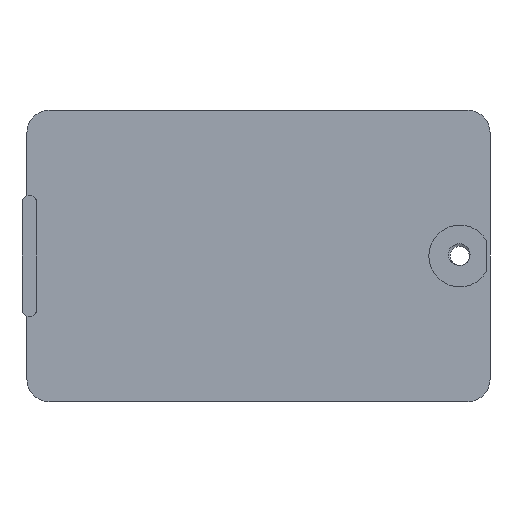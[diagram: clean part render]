
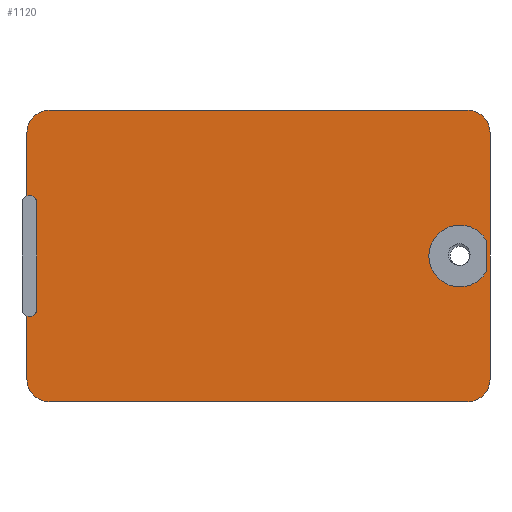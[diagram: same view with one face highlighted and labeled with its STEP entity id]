
A CAD part, front view. The second image highlights one B-rep face of the part: STEP entity #1120.
In plain terms, the highlighted planar face has unit normal (0, -1, 0).
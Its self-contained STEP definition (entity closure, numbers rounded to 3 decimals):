
#5 = CARTESIAN_POINT ( 'NONE',  ( 0., 0., -24.8 ) ) ;
#6 = CIRCLE ( 'NONE', #729, 0.6 ) ;
#22 = EDGE_CURVE ( 'NONE', #415, #393, #1751, .T. ) ;
#26 = DIRECTION ( 'NONE',  ( 0., 0., -1. ) ) ;
#30 = ORIENTED_EDGE ( 'NONE', *, *, #1083, .F. ) ;
#33 = CARTESIAN_POINT ( 'NONE',  ( 36.9, 0., -23. ) ) ;
#41 = EDGE_LOOP ( 'NONE', ( #1222, #150, #839, #1614 ) ) ;
#61 = EDGE_CURVE ( 'NONE', #393, #1060, #1843, .T. ) ;
#92 = VERTEX_POINT ( 'NONE', #1309 ) ;
#103 = VECTOR ( 'NONE', #1578, 1000. ) ;
#130 = CARTESIAN_POINT ( 'NONE',  ( 3., 0., -3. ) ) ;
#138 = CARTESIAN_POINT ( 'NONE',  ( 1.4, 0., -8.7 ) ) ;
#141 = LINE ( 'NONE', #5, #103 ) ;
#150 = ORIENTED_EDGE ( 'NONE', *, *, #1353, .T. ) ;
#170 = EDGE_CURVE ( 'NONE', #350, #92, #1246, .T. ) ;
#212 = DIRECTION ( 'NONE',  ( 0., 0., -1. ) ) ;
#247 = VERTEX_POINT ( 'NONE', #624 ) ;
#259 = CARTESIAN_POINT ( 'NONE',  ( 1.4, 0., -17.3 ) ) ;
#282 = DIRECTION ( 'NONE',  ( 0., 0., -1. ) ) ;
#297 = CIRCLE ( 'NONE', #1301, 0.6 ) ;
#303 = CARTESIAN_POINT ( 'NONE',  ( 2., 0., -8.1 ) ) ;
#308 = CARTESIAN_POINT ( 'NONE',  ( 36.25, 0., -10.5 ) ) ;
#311 = DIRECTION ( 'NONE',  ( 0., -1., 0. ) ) ;
#317 = CARTESIAN_POINT ( 'NONE',  ( 36.25, 0., -15.5 ) ) ;
#347 = ORIENTED_EDGE ( 'NONE', *, *, #1835, .T. ) ;
#350 = VERTEX_POINT ( 'NONE', #1453 ) ;
#352 = EDGE_CURVE ( 'NONE', #733, #1816, #141, .T. ) ;
#358 = DIRECTION ( 'NONE',  ( 0., -1., 0. ) ) ;
#359 = VERTEX_POINT ( 'NONE', #1178 ) ;
#372 = ORIENTED_EDGE ( 'NONE', *, *, #22, .F. ) ;
#387 = AXIS2_PLACEMENT_3D ( 'NONE', #130, #1564, #430 ) ;
#393 = VERTEX_POINT ( 'NONE', #317 ) ;
#399 = DIRECTION ( 'NONE',  ( 0., 1., 0. ) ) ;
#410 = CARTESIAN_POINT ( 'NONE',  ( 1.2, 0., -3. ) ) ;
#415 = VERTEX_POINT ( 'NONE', #308 ) ;
#423 = EDGE_CURVE ( 'NONE', #1638, #1657, #885, .T. ) ;
#428 = CIRCLE ( 'NONE', #1452, 1.8 ) ;
#430 = DIRECTION ( 'NONE',  ( 0., 0., -1. ) ) ;
#443 = DIRECTION ( 'NONE',  ( 0., 0., -1. ) ) ;
#456 = CARTESIAN_POINT ( 'NONE',  ( 1.2, 0., -23. ) ) ;
#458 = VECTOR ( 'NONE', #1205, 1000. ) ;
#471 = DIRECTION ( 'NONE',  ( 0., 0., -1. ) ) ;
#484 = DIRECTION ( 'NONE',  ( -1., 0., 0. ) ) ;
#508 = FACE_BOUND ( 'NONE', #1218, .T. ) ;
#515 = AXIS2_PLACEMENT_3D ( 'NONE', #1846, #980, #1414 ) ;
#522 = ORIENTED_EDGE ( 'NONE', *, *, #61, .F. ) ;
#550 = EDGE_CURVE ( 'NONE', #732, #350, #1354, .T. ) ;
#558 = CARTESIAN_POINT ( 'NONE',  ( 1.5, 0., -17.892 ) ) ;
#565 = CARTESIAN_POINT ( 'NONE',  ( 3., 0., -23. ) ) ;
#603 = DIRECTION ( 'NONE',  ( 0., -1., 0. ) ) ;
#612 = AXIS2_PLACEMENT_3D ( 'NONE', #1736, #1155, #443 ) ;
#624 = CARTESIAN_POINT ( 'NONE',  ( 38.4, 0., -11.724 ) ) ;
#678 = CARTESIAN_POINT ( 'NONE',  ( 1.2, 0., 0. ) ) ;
#690 = ORIENTED_EDGE ( 'NONE', *, *, #1268, .T. ) ;
#695 = DIRECTION ( 'NONE',  ( 0., -1., 0. ) ) ;
#697 = AXIS2_PLACEMENT_3D ( 'NONE', #1572, #1834, #282 ) ;
#724 = VERTEX_POINT ( 'NONE', #1150 ) ;
#729 = AXIS2_PLACEMENT_3D ( 'NONE', #138, #399, #984 ) ;
#732 = VERTEX_POINT ( 'NONE', #1020 ) ;
#733 = VERTEX_POINT ( 'NONE', #1450 ) ;
#761 = EDGE_LOOP ( 'NONE', ( #1676, #994, #1782, #347, #1355, #1307, #1651, #690 ) ) ;
#839 = ORIENTED_EDGE ( 'NONE', *, *, #423, .F. ) ;
#842 = DIRECTION ( 'NONE',  ( 0., 1., 0. ) ) ;
#861 = EDGE_CURVE ( 'NONE', #247, #1060, #1012, .T. ) ;
#863 = DIRECTION ( 'NONE',  ( 0., 0., -1. ) ) ;
#866 = VERTEX_POINT ( 'NONE', #410 ) ;
#871 = VERTEX_POINT ( 'NONE', #1732 ) ;
#876 = VECTOR ( 'NONE', #484, 1000. ) ;
#885 = LINE ( 'NONE', #1461, #1183 ) ;
#904 = CARTESIAN_POINT ( 'NONE',  ( 38.7, 0., 0. ) ) ;
#939 = VECTOR ( 'NONE', #212, 1000. ) ;
#980 = DIRECTION ( 'NONE',  ( 0., -1., 0. ) ) ;
#984 = DIRECTION ( 'NONE',  ( 0., 0., -1. ) ) ;
#989 = ORIENTED_EDGE ( 'NONE', *, *, #861, .T. ) ;
#990 = FACE_BOUND ( 'NONE', #41, .T. ) ;
#994 = ORIENTED_EDGE ( 'NONE', *, *, #1116, .T. ) ;
#1007 = FACE_OUTER_BOUND ( 'NONE', #761, .T. ) ;
#1012 = LINE ( 'NONE', #1159, #1185 ) ;
#1020 = CARTESIAN_POINT ( 'NONE',  ( 38.7, 0., -23. ) ) ;
#1022 = VERTEX_POINT ( 'NONE', #456 ) ;
#1060 = VERTEX_POINT ( 'NONE', #1146 ) ;
#1083 = EDGE_CURVE ( 'NONE', #247, #415, #1087, .T. ) ;
#1084 = PLANE ( 'NONE',  #697 ) ;
#1087 = CIRCLE ( 'NONE', #515, 2.5 ) ;
#1089 = VECTOR ( 'NONE', #1388, 1000. ) ;
#1116 = EDGE_CURVE ( 'NONE', #1022, #733, #1362, .T. ) ;
#1120 = ADVANCED_FACE ( 'NONE', ( #508, #1007, #990 ), #1084, .T. ) ;
#1146 = CARTESIAN_POINT ( 'NONE',  ( 38.4, 0., -14.276 ) ) ;
#1148 = CIRCLE ( 'NONE', #387, 1.8 ) ;
#1150 = CARTESIAN_POINT ( 'NONE',  ( 2., 0., -17.3 ) ) ;
#1155 = DIRECTION ( 'NONE',  ( 0., -1., 0. ) ) ;
#1159 = CARTESIAN_POINT ( 'NONE',  ( 38.4, 0., 0. ) ) ;
#1173 = CARTESIAN_POINT ( 'NONE',  ( 0., 0., -1.2 ) ) ;
#1178 = CARTESIAN_POINT ( 'NONE',  ( 3., 0., -1.2 ) ) ;
#1183 = VECTOR ( 'NONE', #1525, 1000. ) ;
#1185 = VECTOR ( 'NONE', #863, 1000. ) ;
#1192 = CARTESIAN_POINT ( 'NONE',  ( 36.25, 0., -13. ) ) ;
#1205 = DIRECTION ( 'NONE',  ( 0., 0., 1. ) ) ;
#1218 = EDGE_LOOP ( 'NONE', ( #30, #989, #522, #372 ) ) ;
#1222 = ORIENTED_EDGE ( 'NONE', *, *, #1500, .F. ) ;
#1246 = CIRCLE ( 'NONE', #1486, 1.8 ) ;
#1268 = EDGE_CURVE ( 'NONE', #359, #866, #1148, .T. ) ;
#1301 = AXIS2_PLACEMENT_3D ( 'NONE', #259, #842, #26 ) ;
#1307 = ORIENTED_EDGE ( 'NONE', *, *, #170, .T. ) ;
#1309 = CARTESIAN_POINT ( 'NONE',  ( 36.9, 0., -1.2 ) ) ;
#1340 = EDGE_CURVE ( 'NONE', #1638, #871, #6, .T. ) ;
#1353 = EDGE_CURVE ( 'NONE', #724, #1657, #297, .T. ) ;
#1354 = LINE ( 'NONE', #904, #458 ) ;
#1355 = ORIENTED_EDGE ( 'NONE', *, *, #550, .T. ) ;
#1359 = LINE ( 'NONE', #303, #1089 ) ;
#1362 = CIRCLE ( 'NONE', #1569, 1.8 ) ;
#1367 = DIRECTION ( 'NONE',  ( 0., 0., -1. ) ) ;
#1380 = EDGE_CURVE ( 'NONE', #92, #359, #1609, .T. ) ;
#1388 = DIRECTION ( 'NONE',  ( 0., 0., 1. ) ) ;
#1414 = DIRECTION ( 'NONE',  ( 0., 0., -1. ) ) ;
#1450 = CARTESIAN_POINT ( 'NONE',  ( 3., 0., -24.8 ) ) ;
#1452 = AXIS2_PLACEMENT_3D ( 'NONE', #33, #603, #471 ) ;
#1453 = CARTESIAN_POINT ( 'NONE',  ( 38.7, 0., -3. ) ) ;
#1456 = DIRECTION ( 'NONE',  ( 0., 0., -1. ) ) ;
#1461 = CARTESIAN_POINT ( 'NONE',  ( 1.5, 0., -17.9 ) ) ;
#1464 = CARTESIAN_POINT ( 'NONE',  ( 36.9, 0., -24.8 ) ) ;
#1486 = AXIS2_PLACEMENT_3D ( 'NONE', #1635, #358, #1367 ) ;
#1500 = EDGE_CURVE ( 'NONE', #724, #871, #1359, .T. ) ;
#1505 = LINE ( 'NONE', #678, #939 ) ;
#1509 = EDGE_CURVE ( 'NONE', #866, #1022, #1505, .T. ) ;
#1521 = DIRECTION ( 'NONE',  ( 0., 0., -1. ) ) ;
#1524 = AXIS2_PLACEMENT_3D ( 'NONE', #1192, #311, #1456 ) ;
#1525 = DIRECTION ( 'NONE',  ( 0., 0., -1. ) ) ;
#1564 = DIRECTION ( 'NONE',  ( 0., -1., 0. ) ) ;
#1569 = AXIS2_PLACEMENT_3D ( 'NONE', #565, #695, #1521 ) ;
#1572 = CARTESIAN_POINT ( 'NONE',  ( 0., 0., 0. ) ) ;
#1578 = DIRECTION ( 'NONE',  ( 1., 0., 0. ) ) ;
#1609 = LINE ( 'NONE', #1173, #876 ) ;
#1614 = ORIENTED_EDGE ( 'NONE', *, *, #1340, .T. ) ;
#1635 = CARTESIAN_POINT ( 'NONE',  ( 36.9, 0., -3. ) ) ;
#1638 = VERTEX_POINT ( 'NONE', #1817 ) ;
#1651 = ORIENTED_EDGE ( 'NONE', *, *, #1380, .T. ) ;
#1657 = VERTEX_POINT ( 'NONE', #558 ) ;
#1676 = ORIENTED_EDGE ( 'NONE', *, *, #1509, .T. ) ;
#1732 = CARTESIAN_POINT ( 'NONE',  ( 2., 0., -8.7 ) ) ;
#1736 = CARTESIAN_POINT ( 'NONE',  ( 36.25, 0., -13. ) ) ;
#1751 = CIRCLE ( 'NONE', #612, 2.5 ) ;
#1782 = ORIENTED_EDGE ( 'NONE', *, *, #352, .T. ) ;
#1816 = VERTEX_POINT ( 'NONE', #1464 ) ;
#1817 = CARTESIAN_POINT ( 'NONE',  ( 1.5, 0., -8.108 ) ) ;
#1834 = DIRECTION ( 'NONE',  ( 0., -1., 0. ) ) ;
#1835 = EDGE_CURVE ( 'NONE', #1816, #732, #428, .T. ) ;
#1843 = CIRCLE ( 'NONE', #1524, 2.5 ) ;
#1846 = CARTESIAN_POINT ( 'NONE',  ( 36.25, 0., -13. ) ) ;
